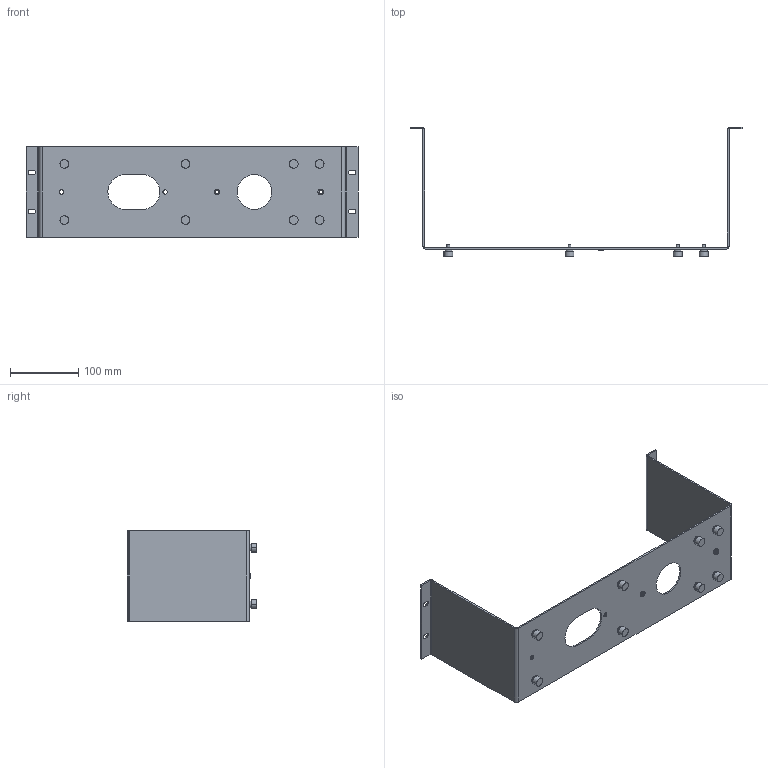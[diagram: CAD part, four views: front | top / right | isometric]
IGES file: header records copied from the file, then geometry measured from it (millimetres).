
Start section:  PTC IGES file: cu_cfp_rack_mount.igs
Global section: file name: cu_cfp_rack_mount.igs; native system: Pro/ENGINEER by Parametric Technology Corporation; preprocessor: 2006300; author: chrisj; organization: Unknown; date: 20070716.143219; units: inch
Bounding box: 487.17 x 190.5 x 132.56 mm (x, y, z)
Surface area: 221189.2 mm2 (no closed solid volume)
Topology: 0 solids, 0 shells, 182 faces, 788 edges, 788 vertices
Faces by surface type: revolution 104, bspline 78
